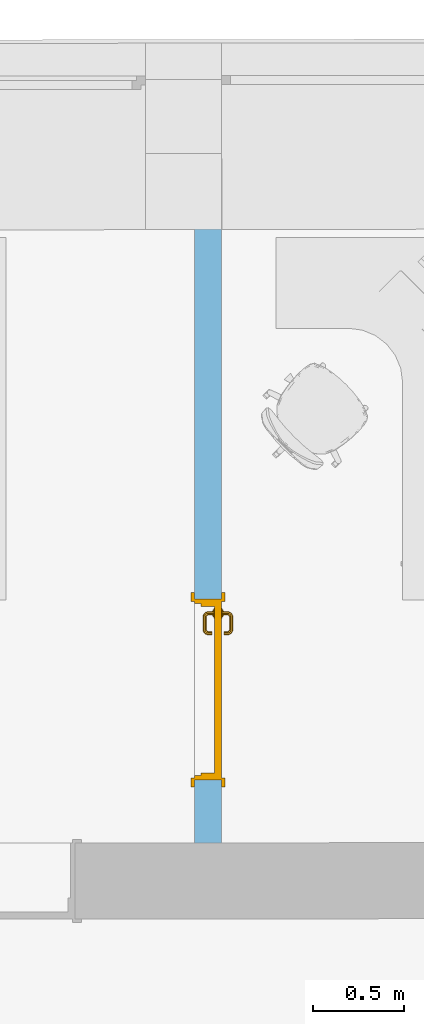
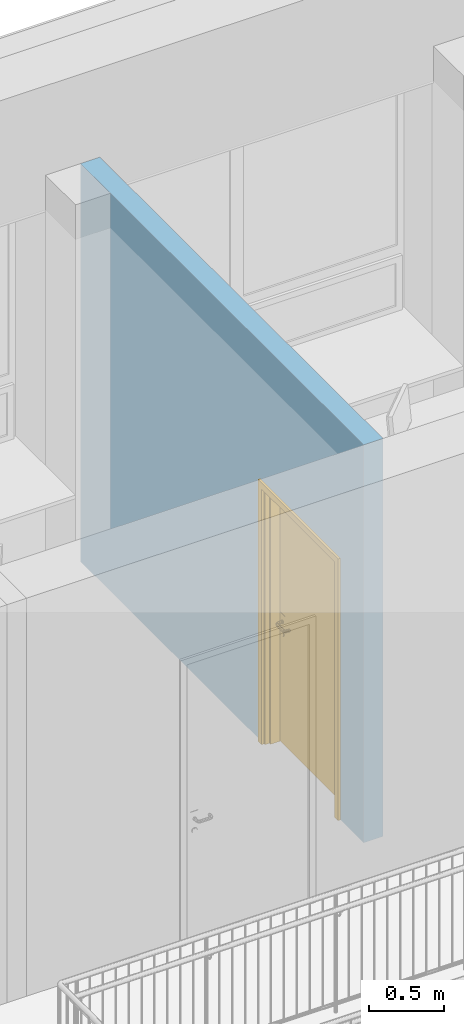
# One storey, part 54 of 194: 1 door, 1 opening, plus 1 element that does not belong to this part.
"""IFC2X3 building model written with IfcOpenShell, lengths in millimetres."""

import ifcopenshell
import ifcopenshell.guid

model = None  # the IFC model being written
_history = None  # IfcOwnerHistory: only IFC2X3 demands one
_inside = {}  # id of a spatial element -> (the spatial element, [elements in it])
_under = {}  # id of a project, library or spatial element -> (it, [spatial elements below it])
_declared = {}  # id of a project -> (the project, [libraries it declares])
_typed = {}  # id of a type object -> (the type object, [elements of that type])
_made_of = {}  # id of a material, layer set ... -> (it, [elements and type objects made of it])


def new_model(schema):
    """Start an empty IFC model of exactly this schema.

    Asked for "IFC4X3", IfcOpenShell would pick the latest addendum, in which some entities
    have other attributes; the version numbers below select the first issue.
    IFC2X3 requires an IfcOwnerHistory on every rooted entity: one is made here for all.
    """
    global model, _history
    if schema == "IFC4X3":
        model = ifcopenshell.file(schema_version=(4, 3, 0, 0))
    else:
        model = ifcopenshell.file(schema=schema)
    _inside.clear()
    _under.clear()
    _declared.clear()
    _typed.clear()
    _made_of.clear()
    _history = None
    if model.schema == "IFC2X3":
        org = make("IfcOrganization", Name="unknown")
        user = make(
            "IfcPersonAndOrganization",
            ThePerson=make("IfcPerson", FamilyName="unknown"),
            TheOrganization=org,
        )
        app = make(
            "IfcApplication",
            ApplicationDeveloper=org,
            Version="unknown",
            ApplicationFullName="unknown",
            ApplicationIdentifier="unknown",
        )
        _history = make(
            "IfcOwnerHistory",
            OwningUser=user,
            OwningApplication=app,
            ChangeAction="ADDED",
            CreationDate=0,
        )
    return model


def make(cls, **values):
    """One entity of the class cls with the attributes given. An attribute that is None is left unset."""
    return model.create_entity(
        cls, **{name: value for name, value in values.items() if value is not None}
    )


def entity(cls, *values):
    """Any entity or typed value of the class cls, its attributes in the order of the schema. None: left unset."""
    e = model.create_entity(cls)
    for i, value in enumerate(values):
        if value is not None:
            e[i] = value
    return e


def rooted(cls, **values):
    """An entity with a GlobalId (a new one), such as an element, a storey or a relation."""
    return make(cls, GlobalId=ifcopenshell.guid.new(), OwnerHistory=_history, **values)


def si_unit(unit_type, name, prefix=None):
    """IfcSIUnit, for example si_unit("LENGTHUNIT", "METRE", prefix="MILLI")."""
    return make("IfcSIUnit", UnitType=unit_type, Prefix=prefix, Name=name)


def converted_unit(unit_type, name, factor, base, dimensions=None, offset=None):
    """IfcConversionBasedUnit, such as the inch: factor (a typed value) times the base unit."""
    return make(
        "IfcConversionBasedUnit"
        if offset is None
        else "IfcConversionBasedUnitWithOffset",
        ConversionOffset=offset,
        Dimensions=None
        if dimensions is None
        else entity("IfcDimensionalExponents", *dimensions),
        UnitType=unit_type,
        Name=name,
        ConversionFactor=make(
            "IfcMeasureWithUnit", ValueComponent=factor, UnitComponent=base
        ),
    )


def derived_unit(unit_type, elements):
    """IfcDerivedUnit: a product of units, each with its exponent."""
    return make(
        "IfcDerivedUnit",
        Elements=[
            make("IfcDerivedUnitElement", Unit=unit, Exponent=power)
            for unit, power in elements
        ],
        UnitType=unit_type,
    )


def money_unit(currency):
    """IfcMonetaryUnit."""
    return make("IfcMonetaryUnit", Currency=currency)


def assignment(units):
    """IfcUnitAssignment: the units of a project."""
    return None if units is None else make("IfcUnitAssignment", Units=units)


def point(xyz):
    """IfcCartesianPoint."""
    return None if xyz is None else make("IfcCartesianPoint", Coordinates=xyz)


def direction(xyz):
    """IfcDirection."""
    return None if xyz is None else make("IfcDirection", DirectionRatios=xyz)


def frame(location, z_axis=None, x_axis=None):
    """IfcAxis2Placement3D, a coordinate frame: its origin and axes. An axis left out is left unset."""
    return make(
        "IfcAxis2Placement3D",
        Location=point(location),
        Axis=direction(z_axis),
        RefDirection=direction(x_axis),
    )


def frame_2d(location, x_axis=None):
    """IfcAxis2Placement2D, a coordinate frame in the plane: its origin and x axis."""
    return make(
        "IfcAxis2Placement2D", Location=point(location), RefDirection=direction(x_axis)
    )


def origin_with_axes():
    """The frame at (0, 0, 0) with the z axis (0, 0, 1) and the x axis (1, 0, 0) written out."""
    return frame((0.0, 0.0, 0.0), z_axis=(0.0, 0.0, 1.0), x_axis=(1.0, 0.0, 0.0))


def origin_2d_with_axis():
    """The frame at (0, 0) in the plane with the x axis (1, 0) written out."""
    return frame_2d((0.0, 0.0), x_axis=(1.0, 0.0))


def place(relative_to, where):
    """IfcLocalPlacement: puts the frame where relative to a parent placement (None: the world)."""
    return make(
        "IfcLocalPlacement", PlacementRelTo=relative_to, RelativePlacement=where
    )


def context(
    kind, dimensions, precision=None, world=None, true_north=None, identifier=None
):
    """IfcGeometricRepresentationContext, for example the 3D "Model" context."""
    return make(
        "IfcGeometricRepresentationContext",
        ContextIdentifier=identifier,
        ContextType=kind,
        CoordinateSpaceDimension=dimensions,
        Precision=precision,
        WorldCoordinateSystem=world,
        TrueNorth=true_north,
    )


def subcontext(parent, identifier, kind, view, scale=None):
    """IfcGeometricRepresentationSubContext, for example "Body" below "Model"."""
    return make(
        "IfcGeometricRepresentationSubContext",
        ContextIdentifier=identifier,
        ContextType=kind,
        ParentContext=parent,
        TargetScale=scale,
        TargetView=view,
    )


def project(units=None, contexts=None):
    """IfcProject with its units and contexts."""
    return rooted(
        "IfcProject",
        Name="project",
        RepresentationContexts=contexts,
        UnitsInContext=assignment(units),
    )


def spatial(cls, under=None, at=None, **own):
    """A site, building, storey or space (cls), placed at a placement, below another one or the project."""
    s = rooted(cls, ObjectPlacement=at, **own)
    if under is not None:
        _under.setdefault(under.id(), (under, []))[1].append(s)
    return s


def polyline(points):
    """IfcPolyline through the points."""
    return make("IfcPolyline", Points=[point(p) for p in points])


def profile(cls, at=None, kind="AREA", **sizes):
    """A parametric profile (cls). Its sizes go by their IFC names, for example OverallWidth=200.0."""
    return make(cls, ProfileType=kind, Position=at, **sizes)


def rectangle(**sizes):
    """IfcRectangleProfileDef."""
    return profile("IfcRectangleProfileDef", **sizes)


def outline(outer, holes=None, kind="AREA"):
    """IfcArbitraryClosedProfileDef: a profile drawn as a closed curve; with holes, ...WithVoids."""
    if holes is None:
        return make("IfcArbitraryClosedProfileDef", ProfileType=kind, OuterCurve=outer)
    return make(
        "IfcArbitraryProfileDefWithVoids",
        ProfileType=kind,
        OuterCurve=outer,
        InnerCurves=holes,
    )


def extrude(swept, where, along, depth):
    """IfcExtrudedAreaSolid: the profile swept, set in the frame where, extruded along a direction by depth."""
    return make(
        "IfcExtrudedAreaSolid",
        SweptArea=swept,
        Position=where,
        ExtrudedDirection=direction(along),
        Depth=depth,
    )


def faces_of(points, faces, orient=None, outer=None):
    """IfcFace entities. A face is a list of loops; a loop is a list of indices into points, from 0.

    orient and outer hold one flag for each loop. By default every Orientation is true, the
    first loop of a face is its IfcFaceOuterBound and the others are IfcFaceBound.
    """
    made = []
    for i, loops in enumerate(faces):
        bounds = []
        for j, loop in enumerate(loops):
            is_outer = j == 0 if outer is None else outer[i][j]
            bounds.append(
                make(
                    "IfcFaceOuterBound" if is_outer else "IfcFaceBound",
                    Bound=make("IfcPolyLoop", Polygon=[points[k] for k in loop]),
                    Orientation=True if orient is None else orient[i][j],
                )
            )
        made.append(make("IfcFace", Bounds=bounds))
    return made


def open_shell(faces, orient=None, outer=None):
    """The faces of one IfcOpenShell. surface_model builds it on its shared points."""
    return ("IfcOpenShell", faces, orient, outer)


def faceted_brep(points, faces, orient=None, outer=None, voids=None):
    """IfcFacetedBrep: a solid bounded by flat faces; with voids (closed shells), ...WithVoids."""
    shared = [point(p) for p in points]
    hull = make("IfcClosedShell", CfsFaces=faces_of(shared, faces, orient, outer))
    if voids is None:
        return make("IfcFacetedBrep", Outer=hull)
    return make(
        "IfcFacetedBrepWithVoids",
        Outer=hull,
        Voids=[
            make(cls, CfsFaces=faces_of(shared, fs, o, b)) for cls, fs, o, b in voids
        ],
    )


def surface_model(cls, points, shells):
    """IfcFaceBasedSurfaceModel or IfcShellBasedSurfaceModel (cls): surfaces that need not close."""
    shared = [point(p) for p in points]
    made = [make(c, CfsFaces=faces_of(shared, fs, o, b)) for c, fs, o, b in shells]
    if cls == "IfcFaceBasedSurfaceModel":
        return make(cls, FbsmFaces=made)
    return make(cls, SbsmBoundary=made)


def shape(context_of_items, identifier, shape_type, items):
    """IfcShapeRepresentation: the items that make up one representation, for example the "Body"."""
    return make(
        "IfcShapeRepresentation",
        ContextOfItems=context_of_items,
        RepresentationIdentifier=identifier,
        RepresentationType=shape_type,
        Items=items,
    )


def material(Name=None, Category=None):
    """IfcMaterial."""
    return make("IfcMaterial", Name=Name, Category=Category)


def layer(
    of_material, thickness, ventilated=None, Name=None, Category=None, Priority=None
):
    """IfcMaterialLayer: one layer of a wall or slab, of a material (None: an air gap)."""
    return make(
        "IfcMaterialLayer",
        Material=of_material,
        LayerThickness=thickness,
        IsVentilated=ventilated,
        Name=Name,
        Category=Category,
        Priority=Priority,
    )


def layer_set(layers, Name=None):
    """IfcMaterialLayerSet."""
    return make("IfcMaterialLayerSet", MaterialLayers=layers, LayerSetName=Name)


def layer_usage(for_layer_set, set_direction, sense, offset, extent=None):
    """IfcMaterialLayerSetUsage: how a layer set lies in its element."""
    return make(
        "IfcMaterialLayerSetUsage",
        ForLayerSet=for_layer_set,
        LayerSetDirection=set_direction,
        DirectionSense=sense,
        OffsetFromReferenceLine=offset,
        ReferenceExtent=extent,
    )


def made_of(thing, what):
    """Note that an element or type object is made of a material, layer set ...; save() writes the relation."""
    if what is not None:
        _made_of.setdefault(what.id(), (what, []))[1].append(thing)
    return thing


def type_object(cls, material=None, **own):
    """A type object (cls), such as IfcWallType, which elements share."""
    return made_of(rooted(cls, **own), material)


def element(
    cls,
    number,
    at=None,
    inside=None,
    cuts=None,
    type_object=None,
    material=None,
    context=None,
    identifier="Body",
    shape_type=None,
    held_by="IfcProductDefinitionShape",
    body=None,
    shapes=None,
    **own,
):
    """One element of the class cls, such as IfcWall. Its Tag is "e" and its number.

    at: its placement. inside: the storey or other place that contains it. cuts: it is an
    opening in that element (IfcRelVoidsElement). A single representation is given by context,
    identifier, shape_type and body (its items); several are given by shapes. held_by: the class
    of the entity that holds the representations. save() writes the other relations.
    """
    e = rooted(cls, Tag="e%d" % number, ObjectPlacement=at, **own)
    if body is not None:
        shapes = [shape(context, identifier, shape_type, body)]
    if shapes is not None:
        e.Representation = make(held_by, Representations=shapes)
    if inside is not None:
        _inside.setdefault(inside.id(), (inside, []))[1].append(e)
    if cuts is not None:
        rooted(
            "IfcRelVoidsElement", RelatingBuildingElement=cuts, RelatedOpeningElement=e
        )
    if type_object is not None:
        _typed.setdefault(type_object.id(), (type_object, []))[1].append(e)
    return made_of(e, material)


def fill(opening, filler):
    """IfcRelFillsElement: the door or window that sits in an opening."""
    return rooted(
        "IfcRelFillsElement",
        RelatingOpeningElement=opening,
        RelatedBuildingElement=filler,
    )


def aggregate(whole, parts):
    """IfcRelAggregates: a whole, such as a stair, and the parts it consists of."""
    return rooted("IfcRelAggregates", RelatingObject=whole, RelatedObjects=parts)


def save(model, path):
    """Write the relations noted so far, then the file.

    IfcRelAggregates (storeys below a building ...), IfcRelContainedInSpatialStructure (elements
    in a storey), IfcRelDefinesByType, IfcRelAssociatesMaterial and IfcRelDeclares: one each for
    every whole, place, type object, material and project.
    """
    for whole, parts in _under.values():
        aggregate(whole, parts)
    for where, things in _inside.values():
        rooted(
            "IfcRelContainedInSpatialStructure",
            RelatedElements=things,
            RelatingStructure=where,
        )
    for kind, things in _typed.values():
        rooted("IfcRelDefinesByType", RelatedObjects=things, RelatingType=kind)
    for what, things in _made_of.values():
        rooted("IfcRelAssociatesMaterial", RelatedObjects=things, RelatingMaterial=what)
    for by, libraries in _declared.values():
        rooted("IfcRelDeclares", RelatingContext=by, RelatedDefinitions=libraries)
    model.write(path)


model = new_model("IFC2X3")

# Units and contexts
model_context = context("Model", 3, precision=1e-05, world=origin_with_axes(), true_north=direction((0.0, 1.0)))
body_context = subcontext(model_context, "Body", "Model", "MODEL_VIEW")
ifc_project = project(units=[si_unit("LENGTHUNIT", "METRE", prefix="MILLI"), si_unit("AREAUNIT", "SQUARE_METRE"), si_unit("VOLUMEUNIT", "CUBIC_METRE"), converted_unit("PLANEANGLEUNIT", "DEGREE", entity("IfcPlaneAngleMeasure", 0.0174532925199), si_unit("PLANEANGLEUNIT", "RADIAN"), dimensions=[0, 0, 0, 0, 0, 0, 0]), si_unit("SOLIDANGLEUNIT", "STERADIAN"), money_unit("EUR"), converted_unit("TIMEUNIT", "Year", entity("IfcTimeMeasure", 31556926.0), si_unit("TIMEUNIT", "SECOND"), dimensions=[0, 0, 1, 0, 0, 0, 0]), si_unit("MASSUNIT", "GRAM", prefix="KILO"), si_unit("THERMODYNAMICTEMPERATUREUNIT", "DEGREE_CELSIUS"), si_unit("LUMINOUSINTENSITYUNIT", "LUMEN"), si_unit("ENERGYUNIT", "JOULE", prefix="MEGA"), derived_unit("THERMALCONDUCTANCEUNIT", [(si_unit("POWERUNIT", "WATT"), 1), (si_unit("LENGTHUNIT", "METRE"), -1), (si_unit("THERMODYNAMICTEMPERATUREUNIT", "KELVIN"), -1)]), derived_unit("SPECIFICHEATCAPACITYUNIT", [(si_unit("ENERGYUNIT", "JOULE"), 1), (si_unit("MASSUNIT", "GRAM", prefix="KILO"), -1), (si_unit("THERMODYNAMICTEMPERATUREUNIT", "KELVIN"), -1)]), derived_unit("MASSDENSITYUNIT", [(si_unit("MASSUNIT", "GRAM", prefix="KILO"), 1), (si_unit("VOLUMEUNIT", "CUBIC_METRE"), -1)])], contexts=[model_context])

# Site, building, storey
site_placement = place(None, origin_with_axes())
site = spatial("IfcSite", under=ifc_project, at=site_placement, Name="Site", CompositionType="ELEMENT")
building_placement = place(site_placement, origin_with_axes())
building = spatial("IfcBuilding", under=site, at=building_placement, Name="Building", CompositionType="ELEMENT")
storey_placement = place(building_placement, frame((0.0, 0.0, 3000.0), z_axis=(0.0, 0.0, 1.0), x_axis=(1.0, 0.0, 0.0)))
storey = spatial("IfcBuildingStorey", under=building, at=storey_placement, Name="2 KORRUS", CompositionType="ELEMENT", Elevation=3000.0)

# Wall, opening, door
ifc_material = material(Name="Kivi -Ol.Olev Konstruktsioon")
ifc_layer = layer(ifc_material, 150.0, ventilated="UNKNOWN")
ifc_layer_set = layer_set([ifc_layer], Name="ol.olev ss 150")
ifc_layer_usage = layer_usage(ifc_layer_set, "AXIS2", "POSITIVE", -150.0)
wall_type = type_object("IfcWallType", Name="SW - 022", PredefinedType="NOTDEFINED")
wall_placement = place(storey_placement, frame((28154.3213896, 47305.5339086, 0.0), z_axis=(0.0, 0.0, 1.0), x_axis=(1.04426663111e-05, -0.999999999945, 0.0)))
wall = element("IfcWallStandardCase", 1, at=wall_placement, inside=storey, type_object=wall_type, material=ifc_layer_usage, Name="ol.olev ss 150", context=body_context, shape_type="SweptSolid", body=[
    extrude(outline(polyline([(430.23967047, -150.0), (4217.50234959, -150.0), (4217.38432264, 0.0), (430.000546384, 0.0), (430.23967047, -150.0)])), origin_with_axes(), (0.0, 0.0, 1.0), 3250.0),
])
opening_placement = place(wall_placement, frame((3371.53937454, 0.0, 0.0), z_axis=(0.0, 0.0, 1.0), x_axis=(1.0, 0.0, 0.0)))
opening = element("IfcOpeningElement", 2, at=opening_placement, cuts=wall, Name="Siseuks * Door 22", context=body_context, shape_type="SweptSolid", body=[
    extrude(rectangle(XDim=1000.0, YDim=2100.0, at=origin_2d_with_axis()), frame((0.0, -150.0, 1050.0), z_axis=(0.0, 1.0, 0.0), x_axis=(1.0, 0.0, 0.0)), (0.0, 0.0, 1.0), 450.0),
    extrude(rectangle(XDim=1074.0, YDim=2137.0, at=origin_2d_with_axis()), frame((0.0, -150.0, 1068.5), z_axis=(0.0, 1.0, 0.0), x_axis=(1.0, 0.0, 0.0)), (0.0, 0.0, -1.0), 150.0),
    extrude(rectangle(XDim=1074.0, YDim=2137.0, at=origin_2d_with_axis()), frame((0.0, 0.0, 1068.5), z_axis=(0.0, -1.0, 0.0), x_axis=(1.0, 0.0, 0.0)), (0.0, 0.0, -1.0), 150.0),
])
door_style = type_object("IfcDoorStyle", Name="SU-B212A   1\xa0000×2\xa0100", ConstructionType="NOTDEFINED", OperationType="SINGLE_SWING_RIGHT", ParameterTakesPrecedence=False, Sizeable=False)
door_placement = place(opening_placement, frame((-500.0, 0.0, 0.0), z_axis=(0.0, 0.0, 1.0), x_axis=(1.0, 0.0, 0.0)))
door = element("IfcDoor", 3, at=door_placement, inside=storey, type_object=door_style, Name="Siseuks * Door 22", OverallHeight=2100.0, OverallWidth=1000.0, context=body_context, shape_type="SurfaceModel", body=[
    faceted_brep([(0.0, -115.0, 0.0), (24.9999999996, -115.0, 0.0), (24.9999999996, -150.0, 0.0), (0.0, -150.0, 0.0), (0.0, -115.0, 2100.0), (24.9999999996, -115.0, 2075.0), (24.9999999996, -150.0, 2075.0), (0.0, -150.0, 2100.0)], [[[0, 1, 2, 3]], [[0, 4, 5, 1]], [[1, 5, 6, 2]], [[3, 2, 6, 7]], [[4, 0, 3, 7]], [[5, 4, 7, 6]]]),
    faceted_brep([(1000.0, -115.0, 2100.0), (974.999999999, -115.0, 2075.0), (974.999999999, -150.0, 2075.0), (1000.0, -150.0, 2100.0), (1000.0, -115.0, 0.0), (974.999999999, -115.0, 0.0), (974.999999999, -150.0, 0.0), (1000.0, -150.0, 0.0)], [[[0, 1, 2, 3]], [[0, 4, 5, 1]], [[1, 5, 6, 2]], [[3, 2, 6, 7]], [[4, 0, 3, 7]], [[5, 4, 7, 6]]]),
    faceted_brep([(24.9999999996, -115.0, 2075.0), (974.999999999, -115.0, 2075.0), (974.999999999, -150.0, 2075.0), (24.9999999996, -150.0, 2075.0), (0.0, -115.0, 2100.0), (1000.0, -115.0, 2100.0), (1000.0, -150.0, 2100.0), (0.0, -150.0, 2100.0)], [[[0, 1, 2, 3]], [[0, 4, 5, 1]], [[1, 5, 6, 2]], [[3, 2, 6, 7]], [[4, 0, 3, 7]], [[5, 4, 7, 6]]]),
    faceted_brep([(-37.0000000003, -169.0, 0.0), (-37.0000000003, -150.0, 0.0), (12.9999999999, -150.0, 0.0), (12.9999999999, -169.0, 0.0), (-37.0000000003, -169.0, 2137.0), (-37.0000000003, -150.0, 2137.0), (12.9999999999, -150.0, 2087.0), (12.9999999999, -169.0, 2087.0)], [[[0, 1, 2, 3]], [[4, 5, 1, 0]], [[1, 5, 6, 2]], [[3, 2, 6, 7]], [[0, 3, 7, 4]], [[7, 6, 5, 4]]]),
    faceted_brep([(1037.0, -169.0, 2137.0), (1037.0, -150.0, 2137.0), (987.0, -150.0, 2087.0), (987.0, -169.0, 2087.0), (1037.0, -169.0, 0.0), (1037.0, -150.0, 0.0), (987.0, -150.0, 0.0), (987.0, -169.0, 0.0)], [[[0, 1, 2, 3]], [[4, 5, 1, 0]], [[1, 5, 6, 2]], [[3, 2, 6, 7]], [[0, 3, 7, 4]], [[7, 6, 5, 4]]]),
    faceted_brep([(-37.0000000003, -169.0, 2137.0), (-37.0000000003, -150.0, 2137.0), (12.9999999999, -150.0, 2087.0), (12.9999999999, -169.0, 2087.0), (1037.0, -169.0, 2137.0), (1037.0, -150.0, 2137.0), (987.0, -150.0, 2087.0), (987.0, -169.0, 2087.0)], [[[0, 1, 2, 3]], [[4, 5, 1, 0]], [[1, 5, 6, 2]], [[3, 2, 6, 7]], [[0, 3, 7, 4]], [[7, 6, 5, 4]]]),
    faceted_brep([(-37.0000000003, 19.0, 0.0), (12.999999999, 19.0, 0.0), (12.9999999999, 0.0, 0.0), (-37.0000000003, 0.0, 0.0), (-37.0000000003, 19.0, 2137.0), (12.999999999, 19.0, 2087.0), (12.9999999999, -1.13686837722e-10, 2087.0), (-37.0000000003, 0.0, 2137.0)], [[[0, 1, 2, 3]], [[0, 4, 5, 1]], [[1, 5, 6, 2]], [[3, 2, 6, 7]], [[4, 0, 3, 7]], [[5, 4, 7, 6]]]),
    faceted_brep([(1037.0, 19.0, 2137.0), (987.0, 19.0, 2087.0), (987.0, -1.13686837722e-10, 2087.0), (1037.0, 0.0, 2137.0), (1037.0, 19.0, 0.0), (987.0, 19.0, 0.0), (987.0, -1.13686837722e-10, 0.0), (1037.0, 0.0, 0.0)], [[[0, 1, 2, 3]], [[0, 4, 5, 1]], [[1, 5, 6, 2]], [[3, 2, 6, 7]], [[4, 0, 3, 7]], [[5, 4, 7, 6]]]),
    faceted_brep([(-37.0000000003, 19.0, 2137.0), (12.999999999, 19.0, 2087.0), (12.9999999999, -1.13686837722e-10, 2087.0), (-37.0000000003, 0.0, 2137.0), (1037.0, 19.0, 2137.0), (987.0, 19.0, 2087.0), (987.0, -1.13686837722e-10, 2087.0), (1037.0, 0.0, 2137.0)], [[[0, 1, 2, 3]], [[0, 4, 5, 1]], [[1, 5, 6, 2]], [[3, 2, 6, 7]], [[4, 0, 3, 7]], [[5, 4, 7, 6]]]),
    faceted_brep([(39.9999999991, -40.0000000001, 0.0), (39.9999999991, -40.0000000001, 2060.0), (39.9999999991, -115.0, 2060.0), (39.9999999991, -115.0, 0.0), (27.9999999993, -40.0000000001, 2060.0), (27.9999999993, -40.0000000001, 0.0), (27.9999999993, -1.13686837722e-10, 2060.0), (0.0, 0.0, 2060.0), (0.0, -115.0, 2060.0), (0.0, -115.0, 0.0), (0.0, 0.0, 0.0), (27.9999999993, -1.13686837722e-10, 0.0)], [[[0, 1, 2, 3]], [[4, 1, 0, 5]], [[4, 6, 7, 8, 2, 1]], [[3, 2, 8, 9]], [[5, 0, 3, 9, 10, 11]], [[6, 4, 5, 11]], [[6, 11, 10, 7]], [[10, 9, 8, 7]]]),
    faceted_brep([(972.0, -40.0000000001, 2060.0), (960.0, -40.0000000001, 2060.0), (959.999999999, -115.0, 2060.0), (1000.0, -115.0, 2060.0), (1000.0, 0.0, 2060.0), (972.0, 0.0, 2060.0), (972.0, -40.0000000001, 0.0), (960.0, -40.0000000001, 0.0), (959.999999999, -115.0, 0.0), (1000.0, -115.0, 0.0), (1000.0, 0.0, 0.0), (972.0, 0.0, 0.0)], [[[0, 1, 2, 3, 4, 5]], [[1, 0, 6, 7]], [[1, 7, 8, 2]], [[3, 2, 8, 9]], [[4, 3, 9, 10]], [[11, 5, 4, 10]], [[0, 5, 11, 6]], [[6, 11, 10, 9, 8, 7]]]),
    faceted_brep([(27.9999999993, -1.13686837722e-10, 2072.0), (27.9999999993, -1.13686837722e-10, 2060.0), (0.0, 0.0, 2060.0), (0.0, 0.0, 2100.0), (1000.0, 0.0, 2100.0), (1000.0, 0.0, 2060.0), (972.0, 0.0, 2060.0), (972.0, 0.0, 2072.0), (27.9999999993, -40.0000000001, 2072.0), (27.9999999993, -40.0000000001, 2060.0), (39.9999999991, -40.0000000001, 2060.0), (39.9999999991, -115.0, 2060.0), (0.0, -115.0, 2060.0), (0.0, -115.0, 2100.0), (1000.0, -115.0, 2100.0), (1000.0, -115.0, 2060.0), (972.0, -40.0000000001, 2060.0), (959.999999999, -115.0, 2060.0), (960.0, -40.0000000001, 2060.0), (972.0, -40.0000000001, 2072.0)], [[[0, 1, 2, 3, 4, 5, 6, 7]], [[1, 0, 8, 9]], [[9, 10, 11, 12, 2, 1]], [[2, 12, 13, 3]], [[3, 13, 14, 4]], [[4, 14, 15, 5]], [[16, 6, 5, 15, 17, 18]], [[7, 6, 16, 19]], [[0, 7, 19, 8]], [[16, 18, 10, 9, 8, 19]], [[10, 18, 17, 11]], [[17, 15, 14, 13, 12, 11]]]),
    faceted_brep([(49.5000000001, -40.0, 1060.0), (49.5000000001, -43.0000000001, 1060.0), (106.5, -43.0000000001, 1060.0), (106.499999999, -40.0000000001, 1060.0), (49.5000000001, -40.0, 870.0), (49.5000000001, -43.0000000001, 870.0), (106.5, -43.0000000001, 870.0), (106.499999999, -40.0000000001, 870.0)], [[[0, 1, 2, 3]], [[4, 5, 1, 0]], [[1, 5, 6, 2]], [[3, 2, 6, 7]], [[0, 3, 7, 4]], [[7, 6, 5, 4]]]),
    surface_model("IfcShellBasedSurfaceModel", [(87.9999999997, -53.0, 1000.0), (87.9999999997, -72.0150859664, 1000.0), (85.0710678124, -72.3035606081, 992.928932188), (85.0710678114, -53.0, 992.928932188), (85.0710678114, -53.0, 1007.07106781), (85.0710678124, -72.3035606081, 1007.07106781), (88.9422033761, -76.7518622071, 1000.0), (86.1832095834, -77.8946748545, 992.928932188), (77.9999999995, -73.0, 990.0), (77.9999999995, -53.0000000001, 990.0), (77.9999999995, -53.0000000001, 1010.0), (77.9999999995, -73.0, 1010.0), (86.1832095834, -77.8946748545, 1007.07106781), (91.0674625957, -79.9325374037, 1000.0), (88.9558201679, -82.0441798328, 992.928932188), (79.5224093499, -80.6536686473, 990.0), (70.9289321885, -73.6964393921, 992.928932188), (70.9289321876, -53.0, 992.928932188), (70.9289321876, -53.0, 1007.07106781), (70.9289321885, -73.6964393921, 1007.07106781), (79.5224093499, -80.6536686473, 1010.0), (88.9558201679, -82.0441798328, 1007.07106781), (94.2481377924, -82.0577966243, 1000.0), (93.1053251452, -84.8167904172, 992.928932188), (83.857864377, -87.1421356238, 990.0), (72.8616091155, -83.4126624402, 992.928932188), (68.0000000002, -73.9849140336, 1000.0), (68.0000000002, -53.0000000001, 1000.0), (72.8616091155, -83.4126624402, 1007.07106781), (83.857864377, -87.1421356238, 1010.0), (93.1053251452, -84.8167904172, 1007.07106781), (98.9849140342, -83.0000000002, 1000.0), (98.6964393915, -85.9289321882, 992.928932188), (90.3463313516, -91.4775906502, 990.0), (78.7599085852, -92.2400914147, 992.928932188), (70.1026153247, -84.5554750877, 1000.0), (78.7599085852, -92.2400914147, 1007.07106781), (90.3463313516, -91.4775906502, 1010.0), (98.6964393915, -85.9289321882, 1007.07106781), (167.015085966, -83.0000000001, 1000.0), (167.303560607, -85.9289321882, 992.928932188), (98.0, -93.0000000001, 990.0), (87.5873375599, -98.1383908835, 992.928932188), (76.6482661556, -94.3517338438, 1000.0), (87.5873375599, -98.1383908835, 1007.07106781), (98.0, -93.0000000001, 1010.0), (167.303560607, -85.9289321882, 1007.07106781), (171.751862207, -82.0577966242, 1000.0), (172.894674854, -84.8167904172, 992.928932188), (168.000000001, -93.0000000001, 990.0), (97.3035606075, -100.071067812, 992.928932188), (86.4445249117, -100.897384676, 1000.0), (97.3035606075, -100.071067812, 1007.07106781), (168.000000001, -93.0000000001, 1010.0), (172.894674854, -84.8167904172, 1007.07106781), (174.932537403, -79.9325374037, 1000.0), (177.044179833, -82.0441798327, 992.928932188), (175.653668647, -91.4775906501, 990.0), (168.696439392, -100.071067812, 992.928932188), (97.0150859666, -103.0, 1000.0), (168.696439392, -100.071067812, 1007.07106781), (175.653668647, -91.4775906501, 1010.0), (177.044179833, -82.0441798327, 1007.07106781), (177.057796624, -76.7518622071, 1000.0), (179.816790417, -77.8946748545, 992.928932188), (182.142135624, -87.1421356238, 990.0), (178.41266244, -98.1383908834, 992.928932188), (168.984914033, -103.0, 1000.0), (178.41266244, -98.1383908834, 1007.07106781), (182.142135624, -87.1421356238, 1010.0), (179.816790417, -77.8946748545, 1007.07106781), (178.0, -72.0150859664, 1000.0), (180.928932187, -72.3035606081, 992.928932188), (186.47759065, -80.6536686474, 990.0), (187.240091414, -92.2400914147, 992.928932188), (179.555475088, -100.897384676, 1000.0), (187.240091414, -92.2400914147, 1007.07106781), (186.47759065, -80.6536686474, 1010.0), (180.928932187, -72.3035606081, 1007.07106781), (178.0, -53.0, 1000.0), (180.928932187, -53.0, 992.928932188), (188.0, -73.0, 990.0), (193.138390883, -83.4126624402, 992.928932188), (189.351733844, -94.3517338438, 1000.0), (193.138390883, -83.4126624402, 1007.07106781), (188.0, -73.0, 1010.0), (180.928932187, -53.0, 1007.07106781), (188.0, -53.0000000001, 1010.0), (195.071067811, -53.0, 1007.07106781), (198.0, -53.0, 1000.0), (195.071067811, -53.0, 992.928932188), (188.0, -53.0000000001, 990.0), (195.071067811, -73.6964393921, 992.928932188), (195.897384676, -84.5554750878, 1000.0), (195.071067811, -73.6964393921, 1007.07106781), (197.999999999, -73.9849140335, 1000.0)], [open_shell([[[0, 1, 2, 3]], [[4, 5, 1, 0]], [[1, 6, 7, 2]], [[3, 2, 8, 9]], [[10, 11, 5, 4]], [[5, 12, 6, 1]], [[6, 13, 14, 7]], [[2, 7, 15, 8]], [[9, 8, 16, 17]], [[18, 19, 11, 10]], [[11, 20, 12, 5]], [[12, 21, 13, 6]], [[13, 22, 23, 14]], [[7, 14, 24, 15]], [[8, 15, 25, 16]], [[17, 16, 26, 27]], [[27, 26, 19, 18]], [[19, 28, 20, 11]], [[20, 29, 21, 12]], [[21, 30, 22, 13]], [[22, 31, 32, 23]], [[14, 23, 33, 24]], [[15, 24, 34, 25]], [[16, 25, 35, 26]], [[26, 35, 28, 19]], [[28, 36, 29, 20]], [[29, 37, 30, 21]], [[30, 38, 31, 22]], [[31, 39, 40, 32]], [[23, 32, 41, 33]], [[24, 33, 42, 34]], [[25, 34, 43, 35]], [[35, 43, 36, 28]], [[36, 44, 37, 29]], [[37, 45, 38, 30]], [[38, 46, 39, 31]], [[39, 47, 48, 40]], [[32, 40, 49, 41]], [[33, 41, 50, 42]], [[34, 42, 51, 43]], [[43, 51, 44, 36]], [[44, 52, 45, 37]], [[45, 53, 46, 38]], [[46, 54, 47, 39]], [[47, 55, 56, 48]], [[40, 48, 57, 49]], [[41, 49, 58, 50]], [[42, 50, 59, 51]], [[51, 59, 52, 44]], [[52, 60, 53, 45]], [[53, 61, 54, 46]], [[54, 62, 55, 47]], [[55, 63, 64, 56]], [[48, 56, 65, 57]], [[49, 57, 66, 58]], [[50, 58, 67, 59]], [[59, 67, 60, 52]], [[60, 68, 61, 53]], [[61, 69, 62, 54]], [[62, 70, 63, 55]], [[63, 71, 72, 64]], [[56, 64, 73, 65]], [[57, 65, 74, 66]], [[58, 66, 75, 67]], [[67, 75, 68, 60]], [[68, 76, 69, 61]], [[69, 77, 70, 62]], [[70, 78, 71, 63]], [[71, 79, 80, 72]], [[64, 72, 81, 73]], [[65, 73, 82, 74]], [[66, 74, 83, 75]], [[75, 83, 76, 68]], [[76, 84, 77, 69]], [[77, 85, 78, 70]], [[78, 86, 79, 71]], [[79, 86, 87, 88, 89, 90, 91, 80]], [[72, 80, 91, 81]], [[73, 81, 92, 82]], [[74, 82, 93, 83]], [[83, 93, 84, 76]], [[84, 94, 85, 77]], [[85, 87, 86, 78]], [[94, 88, 87, 85]], [[95, 89, 88, 94]], [[92, 90, 89, 95]], [[81, 91, 90, 92]], [[82, 92, 95, 93]], [[93, 95, 94, 84]]])]),
    faceted_brep([(88.392304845, -53.0, 994.0), (89.2583302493, -43.0, 993.5), (90.9999999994, -43.0000000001, 1000.0), (90.0000000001, -53.0000000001, 1000.0), (83.9999999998, -53.0000000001, 989.607695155), (84.4999999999, -43.0, 988.741669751), (77.9999999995, -43.0000000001, 987.0), (71.5, -43.0000000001, 988.741669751), (66.7416697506, -43.0000000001, 993.5), (64.9999999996, -43.0, 1000.0), (66.7416697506, -43.0000000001, 1006.5), (71.5, -43.0000000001, 1011.25833025), (77.9999999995, -43.0000000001, 1013.0), (84.4999999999, -43.0, 1011.25833025), (89.2583302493, -43.0, 1006.5), (88.392304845, -53.0, 1006.0), (83.9999999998, -53.0000000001, 1010.39230485), (77.9999999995, -53.0000000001, 1012.0), (72.0000000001, -53.0000000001, 1010.39230485), (67.6076951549, -53.0000000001, 1006.0), (65.9999999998, -53.0000000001, 1000.0), (67.6076951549, -53.0000000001, 994.0), (72.0000000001, -53.0000000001, 989.607695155), (77.9999999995, -53.0000000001, 988.0)], [[[0, 1, 2, 3]], [[4, 5, 1, 0]], [[2, 1, 5, 6, 7, 8, 9, 10, 11, 12, 13, 14]], [[3, 2, 14, 15]], [[3, 15, 16, 17, 18, 19, 20, 21, 22, 23, 4, 0]], [[23, 6, 5, 4]], [[22, 7, 6, 23]], [[21, 8, 7, 22]], [[20, 9, 8, 21]], [[19, 10, 9, 20]], [[18, 11, 10, 19]], [[17, 12, 11, 18]], [[16, 13, 12, 17]], [[15, 14, 13, 16]]]),
    faceted_brep([(95.320508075, -47.0, 895.0), (97.0525588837, -43.0, 894.0), (99.9999999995, -43.0000000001, 905.0), (98.0, -47.0, 905.0), (87.9999999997, -47.0, 887.679491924), (89.0000000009, -43.0, 885.947441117), (77.9999999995, -43.0000000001, 883.0), (67.0, -43.0000000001, 885.947441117), (58.9474411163, -43.0000000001, 894.0), (55.9999999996, -43.0, 905.0), (58.9474411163, -43.0000000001, 916.0), (67.0, -43.0000000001, 924.052558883), (77.9999999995, -43.0000000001, 927.0), (89.0000000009, -43.0, 924.052558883), (97.0525588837, -43.0, 916.0), (95.320508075, -47.0, 915.0), (87.9999999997, -47.0, 922.320508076), (77.9999999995, -47.0000000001, 925.0), (68.0000000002, -47.0, 922.320508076), (60.679491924, -47.0, 915.0), (58.0, -47.0000000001, 905.0), (60.679491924, -47.0, 895.0), (68.0000000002, -47.0, 887.679491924), (77.9999999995, -47.0000000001, 885.0)], [[[0, 1, 2, 3]], [[4, 5, 1, 0]], [[2, 1, 5, 6, 7, 8, 9, 10, 11, 12, 13, 14]], [[3, 2, 14, 15]], [[3, 15, 16, 17, 18, 19, 20, 21, 22, 23, 4, 0]], [[23, 6, 5, 4]], [[22, 7, 6, 23]], [[21, 8, 7, 22]], [[20, 9, 8, 21]], [[19, 10, 9, 20]], [[18, 11, 10, 19]], [[17, 12, 11, 18]], [[16, 13, 12, 17]], [[15, 14, 13, 16]]]),
    faceted_brep([(82.9497474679, -49.0000000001, 909.050252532), (83.65685425, -47.0, 908.343145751), (86.0000000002, -47.0, 914.0), (85.0, -49.0, 914.0), (77.9999999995, -49.0000000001, 907.0), (77.9999999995, -47.0000000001, 906.0), (72.34314575, -47.0, 908.343145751), (69.9999999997, -47.0, 914.0), (72.34314575, -47.0, 919.656854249), (77.9999999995, -47.0000000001, 922.0), (83.65685425, -47.0, 919.656854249), (82.9497474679, -49.0000000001, 918.949747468), (77.9999999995, -49.0000000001, 921.0), (73.0502525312, -49.0, 918.949747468), (71.0000000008, -49.0000000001, 914.0), (73.0502525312, -49.0, 909.050252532)], [[[0, 1, 2, 3]], [[4, 5, 1, 0]], [[2, 1, 5, 6, 7, 8, 9, 10]], [[3, 2, 10, 11]], [[3, 11, 12, 13, 14, 15, 4, 0]], [[15, 6, 5, 4]], [[14, 7, 6, 15]], [[13, 8, 7, 14]], [[12, 9, 8, 13]], [[11, 10, 9, 12]]]),
    faceted_brep([(49.5000000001, 0.0, 1060.0), (106.5, 0.0, 1060.0), (106.499999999, 2.99999999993, 1060.0), (49.4999999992, 2.99999999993, 1060.0), (49.5000000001, 0.0, 870.0), (106.5, 0.0, 870.0), (106.499999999, 2.99999999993, 870.0), (49.4999999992, 2.99999999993, 870.0)], [[[0, 1, 2, 3]], [[0, 4, 5, 1]], [[1, 5, 6, 2]], [[3, 2, 6, 7]], [[4, 0, 3, 7]], [[5, 4, 7, 6]]]),
    surface_model("IfcShellBasedSurfaceModel", [(87.9999999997, 12.9999999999, 1000.0), (85.0710678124, 12.9999999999, 992.928932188), (85.0710678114, 32.3035606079, 992.928932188), (87.9999999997, 32.0150859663, 1000.0), (77.9999999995, 12.9999999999, 990.0), (77.9999999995, 33.0, 990.0), (86.1832095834, 37.8946748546, 992.928932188), (88.9422033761, 36.7518622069, 1000.0), (85.0710678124, 12.9999999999, 1007.07106781), (85.0710678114, 32.3035606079, 1007.07106781), (70.9289321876, 12.9999999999, 992.928932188), (70.9289321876, 33.696439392, 992.928932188), (79.522409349, 40.6536686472, 990.0), (88.9558201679, 42.0441798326, 992.928932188), (91.0674625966, 39.9325374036, 1000.0), (86.1832095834, 37.8946748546, 1007.07106781), (77.9999999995, 12.9999999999, 1010.0), (77.9999999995, 33.0, 1010.0), (68.0000000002, 12.9999999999, 1000.0), (68.0000000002, 33.9849140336, 1000.0), (72.8616091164, 43.4126624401, 992.928932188), (83.8578643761, 47.1421356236, 990.0), (93.1053251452, 44.816790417, 992.928932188), (94.2481377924, 42.0577966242, 1000.0), (88.9558201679, 42.0441798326, 1007.07106781), (79.522409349, 40.6536686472, 1010.0), (70.9289321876, 12.9999999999, 1007.07106781), (70.9289321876, 33.696439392, 1007.07106781), (70.1026153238, 44.5554750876, 1000.0), (78.7599085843, 52.2400914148, 992.928932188), (90.3463313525, 51.4775906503, 990.0), (98.6964393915, 45.9289321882, 992.928932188), (98.9849140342, 42.9999999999, 1000.0), (93.1053251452, 44.816790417, 1007.07106781), (83.8578643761, 47.1421356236, 1010.0), (72.8616091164, 43.4126624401, 1007.07106781), (76.6482661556, 54.3517338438, 1000.0), (87.5873375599, 58.1383908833, 992.928932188), (98.0, 53.0, 990.0), (167.303560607, 45.9289321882, 992.928932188), (167.015085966, 43.0, 1000.0), (98.6964393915, 45.9289321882, 1007.07106781), (90.3463313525, 51.4775906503, 1010.0), (78.7599085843, 52.2400914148, 1007.07106781), (86.4445249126, 60.8973846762, 1000.0), (97.3035606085, 60.0710678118, 992.928932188), (168.0, 52.9999999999, 990.0), (172.894674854, 44.816790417, 992.928932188), (171.751862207, 42.0577966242, 1000.0), (167.303560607, 45.9289321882, 1007.07106781), (98.0, 53.0, 1010.0), (87.5873375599, 58.1383908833, 1007.07106781), (97.0150859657, 62.9999999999, 1000.0), (168.696439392, 60.0710678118, 992.928932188), (175.653668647, 51.4775906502, 990.0), (177.044179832, 42.0441798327, 992.928932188), (174.932537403, 39.9325374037, 1000.0), (172.894674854, 44.816790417, 1007.07106781), (168.0, 52.9999999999, 1010.0), (97.3035606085, 60.0710678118, 1007.07106781), (168.984914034, 62.9999999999, 1000.0), (178.41266244, 58.1383908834, 992.928932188), (182.142135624, 47.1421356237, 990.0), (179.816790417, 37.8946748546, 992.928932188), (177.057796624, 36.751862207, 1000.0), (177.044179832, 42.0441798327, 1007.07106781), (175.653668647, 51.4775906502, 1010.0), (168.696439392, 60.0710678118, 1007.07106781), (179.555475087, 60.8973846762, 1000.0), (187.240091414, 52.2400914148, 992.928932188), (186.477590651, 40.6536686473, 990.0), (180.928932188, 32.3035606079, 992.928932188), (178.0, 32.0150859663, 1000.0), (179.816790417, 37.8946748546, 1007.07106781), (182.142135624, 47.1421356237, 1010.0), (178.41266244, 58.1383908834, 1007.07106781), (189.351733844, 54.3517338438, 1000.0), (193.138390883, 43.4126624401, 992.928932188), (188.0, 33.0, 990.0), (180.928932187, 12.9999999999, 992.928932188), (178.0, 12.9999999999, 1000.0), (180.928932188, 32.3035606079, 1007.07106781), (186.477590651, 40.6536686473, 1010.0), (187.240091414, 52.2400914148, 1007.07106781), (195.897384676, 44.5554750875, 1000.0), (195.071067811, 33.6964393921, 992.928932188), (188.0, 12.9999999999, 990.0), (195.071067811, 12.9999999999, 992.928932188), (198.0, 12.9999999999, 1000.0), (195.071067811, 12.9999999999, 1007.07106781), (188.0, 12.9999999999, 1010.0), (180.928932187, 12.9999999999, 1007.07106781), (188.0, 33.0, 1010.0), (193.138390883, 43.4126624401, 1007.07106781), (198.0, 33.9849140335, 1000.0), (195.071067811, 33.6964393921, 1007.07106781)], [open_shell([[[0, 1, 2, 3]], [[1, 4, 5, 2]], [[3, 2, 6, 7]], [[8, 0, 3, 9]], [[4, 10, 11, 5]], [[2, 5, 12, 6]], [[7, 6, 13, 14]], [[9, 3, 7, 15]], [[16, 8, 9, 17]], [[10, 18, 19, 11]], [[5, 11, 20, 12]], [[6, 12, 21, 13]], [[14, 13, 22, 23]], [[15, 7, 14, 24]], [[17, 9, 15, 25]], [[26, 16, 17, 27]], [[18, 26, 27, 19]], [[11, 19, 28, 20]], [[12, 20, 29, 21]], [[13, 21, 30, 22]], [[23, 22, 31, 32]], [[24, 14, 23, 33]], [[25, 15, 24, 34]], [[27, 17, 25, 35]], [[19, 27, 35, 28]], [[20, 28, 36, 29]], [[21, 29, 37, 30]], [[22, 30, 38, 31]], [[32, 31, 39, 40]], [[33, 23, 32, 41]], [[34, 24, 33, 42]], [[35, 25, 34, 43]], [[28, 35, 43, 36]], [[29, 36, 44, 37]], [[30, 37, 45, 38]], [[31, 38, 46, 39]], [[40, 39, 47, 48]], [[41, 32, 40, 49]], [[42, 33, 41, 50]], [[43, 34, 42, 51]], [[36, 43, 51, 44]], [[37, 44, 52, 45]], [[38, 45, 53, 46]], [[39, 46, 54, 47]], [[48, 47, 55, 56]], [[49, 40, 48, 57]], [[50, 41, 49, 58]], [[51, 42, 50, 59]], [[44, 51, 59, 52]], [[45, 52, 60, 53]], [[46, 53, 61, 54]], [[47, 54, 62, 55]], [[56, 55, 63, 64]], [[57, 48, 56, 65]], [[58, 49, 57, 66]], [[59, 50, 58, 67]], [[52, 59, 67, 60]], [[53, 60, 68, 61]], [[54, 61, 69, 62]], [[55, 62, 70, 63]], [[64, 63, 71, 72]], [[65, 56, 64, 73]], [[66, 57, 65, 74]], [[67, 58, 66, 75]], [[60, 67, 75, 68]], [[61, 68, 76, 69]], [[62, 69, 77, 70]], [[63, 70, 78, 71]], [[72, 71, 79, 80]], [[73, 64, 72, 81]], [[74, 65, 73, 82]], [[75, 66, 74, 83]], [[68, 75, 83, 76]], [[69, 76, 84, 77]], [[70, 77, 85, 78]], [[71, 78, 86, 79]], [[80, 79, 86, 87, 88, 89, 90, 91]], [[81, 72, 80, 91]], [[82, 73, 81, 92]], [[83, 74, 82, 93]], [[76, 83, 93, 84]], [[77, 84, 94, 85]], [[78, 85, 87, 86]], [[85, 94, 88, 87]], [[94, 95, 89, 88]], [[95, 92, 90, 89]], [[92, 81, 91, 90]], [[93, 82, 92, 95]], [[84, 93, 95, 94]]])]),
    faceted_brep([(88.392304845, 12.9999999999, 994.0), (90.0000000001, 12.9999999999, 1000.0), (90.9999999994, 2.99999999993, 1000.0), (89.2583302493, 2.99999999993, 993.5), (83.9999999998, 12.9999999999, 989.607695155), (77.9999999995, 12.9999999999, 988.0), (72.0000000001, 12.9999999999, 989.607695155), (67.6076951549, 12.9999999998, 994.0), (65.9999999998, 12.9999999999, 1000.0), (67.6076951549, 12.9999999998, 1006.0), (72.0000000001, 12.9999999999, 1010.39230485), (77.9999999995, 12.9999999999, 1012.0), (83.9999999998, 12.9999999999, 1010.39230485), (88.392304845, 12.9999999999, 1006.0), (89.2583302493, 2.99999999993, 1006.5), (84.4999999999, 2.99999999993, 1011.25833025), (77.9999999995, 2.99999999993, 1013.0), (71.5, 2.99999999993, 1011.25833025), (66.7416697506, 2.99999999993, 1006.5), (64.9999999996, 2.99999999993, 1000.0), (66.7416697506, 2.99999999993, 993.5), (71.5, 2.99999999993, 988.741669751), (77.9999999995, 2.99999999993, 987.0), (84.4999999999, 2.99999999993, 988.741669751)], [[[0, 1, 2, 3]], [[1, 0, 4, 5, 6, 7, 8, 9, 10, 11, 12, 13]], [[1, 13, 14, 2]], [[2, 14, 15, 16, 17, 18, 19, 20, 21, 22, 23, 3]], [[4, 0, 3, 23]], [[5, 4, 23, 22]], [[6, 5, 22, 21]], [[7, 6, 21, 20]], [[8, 7, 20, 19]], [[9, 8, 19, 18]], [[10, 9, 18, 17]], [[11, 10, 17, 16]], [[12, 11, 16, 15]], [[13, 12, 15, 14]]]),
    faceted_brep([(95.320508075, 6.99999999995, 895.0), (98.0, 6.99999999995, 905.0), (99.9999999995, 2.99999999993, 905.0), (97.0525588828, 2.99999999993, 894.0), (87.9999999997, 6.99999999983, 887.679491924), (77.9999999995, 6.99999999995, 885.0), (68.0000000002, 6.99999999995, 887.679491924), (60.679491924, 6.99999999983, 895.0), (58.0, 6.99999999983, 905.0), (60.679491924, 6.99999999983, 915.0), (68.0000000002, 6.99999999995, 922.320508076), (77.9999999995, 6.99999999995, 925.0), (87.9999999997, 6.99999999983, 922.320508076), (95.320508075, 6.99999999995, 915.0), (97.0525588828, 2.99999999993, 916.0), (88.9999999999, 2.99999999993, 924.052558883), (77.9999999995, 2.99999999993, 927.0), (66.9999999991, 2.99999999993, 924.052558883), (58.9474411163, 2.99999999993, 916.0), (55.9999999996, 2.99999999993, 905.0), (58.9474411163, 2.99999999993, 894.0), (66.9999999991, 2.99999999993, 885.947441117), (77.9999999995, 2.99999999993, 883.0), (88.9999999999, 2.99999999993, 885.947441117)], [[[0, 1, 2, 3]], [[1, 0, 4, 5, 6, 7, 8, 9, 10, 11, 12, 13]], [[1, 13, 14, 2]], [[2, 14, 15, 16, 17, 18, 19, 20, 21, 22, 23, 3]], [[4, 0, 3, 23]], [[5, 4, 23, 22]], [[6, 5, 22, 21]], [[7, 6, 21, 20]], [[8, 7, 20, 19]], [[9, 8, 19, 18]], [[10, 9, 18, 17]], [[11, 10, 17, 16]], [[12, 11, 16, 15]], [[13, 12, 15, 14]]]),
    faceted_brep([(82.9497474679, 9.00000000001, 909.050252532), (85.0, 8.9999999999, 914.0), (86.0000000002, 6.99999999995, 914.0), (83.65685425, 6.99999999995, 908.343145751), (77.9999999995, 8.9999999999, 907.0), (73.0502525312, 8.9999999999, 909.050252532), (70.9999999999, 9.00000000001, 914.0), (73.0502525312, 8.9999999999, 918.949747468), (77.9999999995, 8.9999999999, 921.0), (82.9497474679, 9.00000000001, 918.949747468), (83.65685425, 6.99999999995, 919.656854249), (77.9999999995, 6.99999999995, 922.0), (72.34314575, 6.99999999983, 919.656854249), (69.9999999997, 6.99999999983, 914.0), (72.34314575, 6.99999999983, 908.343145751), (77.9999999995, 6.99999999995, 906.0)], [[[0, 1, 2, 3]], [[1, 0, 4, 5, 6, 7, 8, 9]], [[1, 9, 10, 2]], [[2, 10, 11, 12, 13, 14, 15, 3]], [[4, 0, 3, 15]], [[5, 4, 15, 14]], [[6, 5, 14, 13]], [[7, 6, 13, 12]], [[8, 7, 12, 11]], [[9, 8, 11, 10]]]),
    faceted_brep([(972.0, 0.0, 0.0), (972.0, -40.0000000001, 0.0), (27.9999999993, -40.0000000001, 0.0), (27.9999999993, -1.13686837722e-10, 0.0), (972.0, 0.0, 2072.0), (972.0, -40.0000000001, 2072.0), (27.9999999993, -40.0000000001, 2072.0), (27.9999999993, -1.13686837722e-10, 2072.0)], [[[0, 1, 2, 3]], [[4, 5, 1, 0]], [[1, 5, 6, 2]], [[3, 2, 6, 7]], [[0, 3, 7, 4]], [[7, 6, 5, 4]]]),
])
fill(opening, door)

save(model, "model.ifc")
